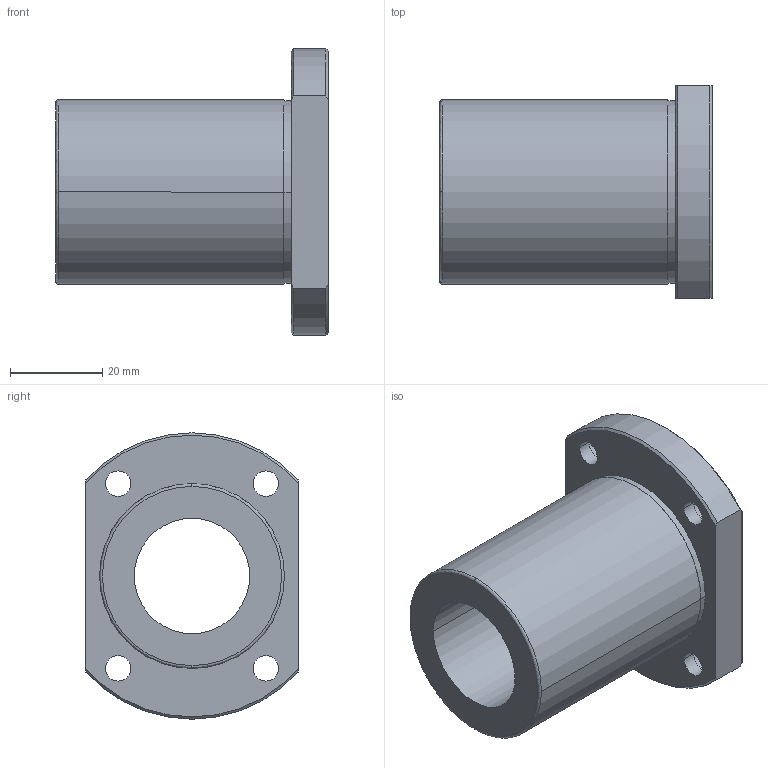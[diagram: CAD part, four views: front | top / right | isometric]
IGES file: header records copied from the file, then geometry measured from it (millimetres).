
Start section: 3D InterOp IGES (Version 21 0 1), Spatial Corp. Copyright (c) 1999-2007.
Global section: file name: NFEO-25VUU.igs; native system: Spatial Corp.; preprocessor: 3D InterOp GENERIC/IGES 3.0; author: Noname; organization: Noname; date: 20220307.120608; units: millimetre
Bounding box: 59 x 46 x 62 mm (x, y, z)
Surface area: 17233.4 mm2 (no closed solid volume)
Topology: 0 solids, 0 shells, 40 faces, 194 edges, 194 vertices
Faces by surface type: revolution 30, extrusion 10
